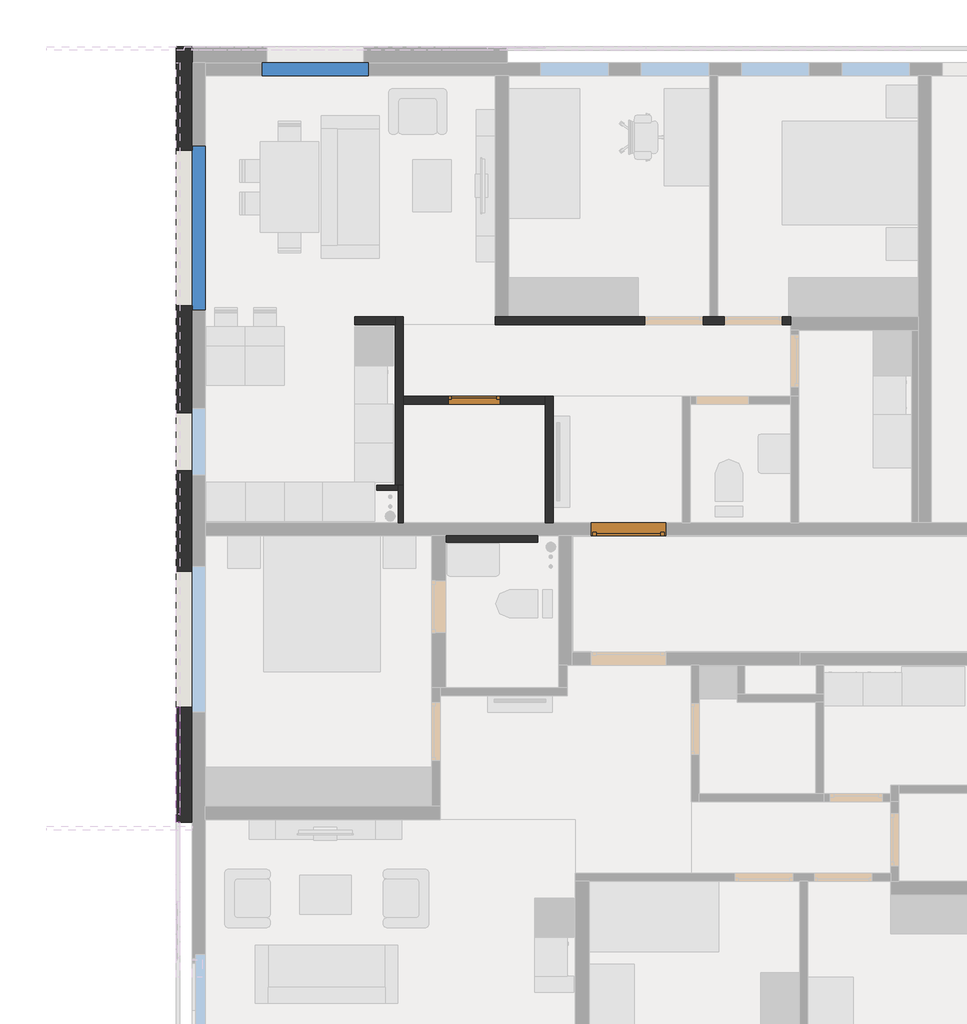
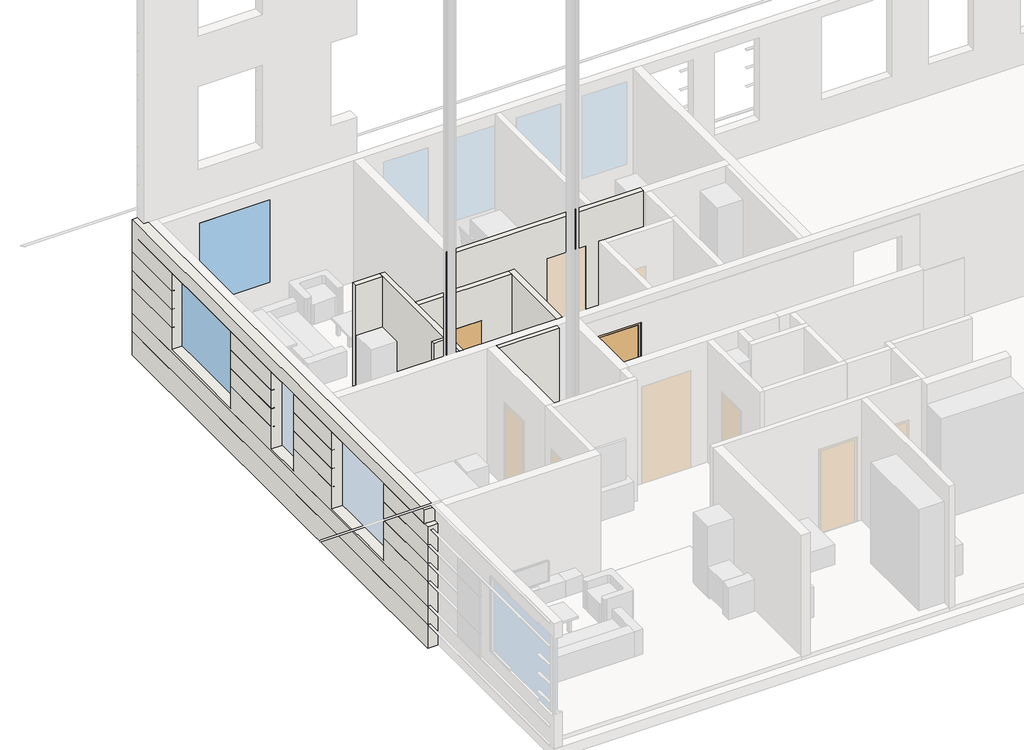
# One storey, part 3 of 11: 9 walls, 5 proxies, 4 doors, 2 windows.
"""IFC4 building model written with IfcOpenShell, lengths in millimetres."""

from ifc_helpers import new_model, si_unit, frame, origin, place, context, project, spatial, polyline, outline, extrude, faceted_brep, transform, mapped, element, save
from components import door_1f93f5fc, door_3b0bb860, door_73803761, door_1132ae02, window_4f46dce5, window_05762c98

model = new_model("IFC4")

# Units and contexts
model_context = context("Model", 3, world=origin())
ifc_project = project(units=[si_unit("LENGTHUNIT", "METRE", prefix="MILLI")], contexts=[model_context])

# Site, building, storey
site = spatial("IfcSite", under=ifc_project)
building = spatial("IfcBuilding", under=site)
storey = spatial("IfcBuildingStorey", under=building, Name="02_+4,400_Ж", Elevation=1200.0)

# Proxies
placement = place(None, origin())
element("IfcBuildingElementProxy", 1, Name="Reveals", at=placement, inside=storey, context=model_context, shape_type="SweptSolid", body=[
    extrude(outline(polyline([(128730.0000001, 128049.9999987), (128790.0000001, 128049.9999987), (128790.0000001, 126449.9999987), (128730.0000001, 126449.9999987), (128730.0000001, 128049.9999987)])), frame((0.0, 0.0, 3395.0), z_axis=(0.0, 0.0, 1.0), x_axis=(1.0, 0.0, 0.0)), (0.0, 0.0, 1.0), 5.0),
    extrude(outline(polyline([(128730.0000001, 117849.9999987), (128790.0000001, 117849.9999987), (128790.0000001, 116074.9999987), (128730.0000001, 116074.9999987), (128730.0000001, 117849.9999987)])), frame((0.0, 0.0, 3395.0), z_axis=(0.0, 0.0, 1.0), x_axis=(1.0, 0.0, 0.0)), (0.0, 0.0, 1.0), 5.0),
    extrude(outline(polyline([(128730.0000001, 121499.9999987), (128790.0000001, 121499.9999987), (128790.0000001, 119949.9999987), (128730.0000001, 119949.9999987), (128730.0000001, 121499.9999987)])), frame((0.0, 0.0, 3395.0), z_axis=(0.0, 0.0, 1.0), x_axis=(1.0, 0.0, 0.0)), (0.0, 0.0, 1.0), 5.0),
    extrude(outline(polyline([(128730.0000001, 124049.9999987), (128790.0000001, 124049.9999987), (128790.0000001, 122399.9999987), (128730.0000001, 122399.9999987), (128730.0000001, 124049.9999987)])), frame((0.0, 0.0, 3395.0), z_axis=(0.0, 0.0, 1.0), x_axis=(1.0, 0.0, 0.0)), (0.0, 0.0, 1.0), 5.0),
])
element("IfcBuildingElementProxy", 2, Name="Reveals", at=placement, inside=storey, context=model_context, shape_type="SweptSolid", body=[
    extrude(outline(polyline([(128730.0000001, 128049.9999987), (128790.0000001, 128049.9999987), (128790.0000001, 126449.9999987), (128730.0000001, 126449.9999987), (128730.0000001, 128049.9999987)])), frame((0.0, 0.0, 2940.0), z_axis=(0.0, 0.0, 1.0), x_axis=(1.0, 0.0, 0.0)), (0.0, 0.0, 1.0), 5.0),
    extrude(outline(polyline([(128730.0000001, 117849.9999987), (128790.0000001, 117849.9999987), (128790.0000001, 116074.9999987), (128730.0000001, 116074.9999987), (128730.0000001, 117849.9999987)])), frame((0.0, 0.0, 2940.0), z_axis=(0.0, 0.0, 1.0), x_axis=(1.0, 0.0, 0.0)), (0.0, 0.0, 1.0), 5.0),
    extrude(outline(polyline([(128730.0000001, 121499.9999987), (128790.0000001, 121499.9999987), (128790.0000001, 119949.9999987), (128730.0000001, 119949.9999987), (128730.0000001, 121499.9999987)])), frame((0.0, 0.0, 2940.0), z_axis=(0.0, 0.0, 1.0), x_axis=(1.0, 0.0, 0.0)), (0.0, 0.0, 1.0), 5.0),
    extrude(outline(polyline([(128730.0000001, 124049.9999987), (128790.0000001, 124049.9999987), (128790.0000001, 122399.9999987), (128730.0000001, 122399.9999987), (128730.0000001, 124049.9999987)])), frame((0.0, 0.0, 2940.0), z_axis=(0.0, 0.0, 1.0), x_axis=(1.0, 0.0, 0.0)), (0.0, 0.0, 1.0), 5.0),
])
element("IfcBuildingElementProxy", 3, Name="Reveals", at=placement, inside=storey, context=model_context, shape_type="SweptSolid", body=[
    extrude(outline(polyline([(128730.0000001, 128049.9999987), (128790.0000001, 128049.9999987), (128790.0000001, 126449.9999987), (128730.0000001, 126449.9999987), (128730.0000001, 128049.9999987)])), frame((0.0, 0.0, 2485.0), z_axis=(0.0, 0.0, 1.0), x_axis=(1.0, 0.0, 0.0)), (0.0, 0.0, 1.0), 5.0),
    extrude(outline(polyline([(128730.0000001, 117849.9999987), (128790.0000001, 117849.9999987), (128790.0000001, 116074.9999987), (128730.0000001, 116074.9999987), (128730.0000001, 117849.9999987)])), frame((0.0, 0.0, 2485.0), z_axis=(0.0, 0.0, 1.0), x_axis=(1.0, 0.0, 0.0)), (0.0, 0.0, 1.0), 5.0),
    extrude(outline(polyline([(128730.0000001, 121499.9999987), (128790.0000001, 121499.9999987), (128790.0000001, 119949.9999987), (128730.0000001, 119949.9999987), (128730.0000001, 121499.9999987)])), frame((0.0, 0.0, 2485.0), z_axis=(0.0, 0.0, 1.0), x_axis=(1.0, 0.0, 0.0)), (0.0, 0.0, 1.0), 5.0),
    extrude(outline(polyline([(128730.0000001, 124049.9999987), (128790.0000001, 124049.9999987), (128790.0000001, 122399.9999987), (128730.0000001, 122399.9999987), (128730.0000001, 124049.9999987)])), frame((0.0, 0.0, 2485.0), z_axis=(0.0, 0.0, 1.0), x_axis=(1.0, 0.0, 0.0)), (0.0, 0.0, 1.0), 5.0),
])
element("IfcBuildingElementProxy", 4, Name="Reveals", at=placement, inside=storey, context=model_context, shape_type="SweptSolid", body=[
    extrude(outline(polyline([(128730.0000001, 128049.9999987), (128790.0000001, 128049.9999987), (128790.0000001, 116074.9999987), (128730.0000001, 116074.9999987), (128730.0000001, 128049.9999987)])), frame((0.0, 0.0, 1880.0), z_axis=(0.0, 0.0, 1.0), x_axis=(1.0, 0.0, 0.0)), (0.0, 0.0, 1.0), 5.0),
])
element("IfcBuildingElementProxy", 5, Name="Reveals", at=placement, inside=storey, context=model_context, shape_type="SweptSolid", body=[
    extrude(outline(polyline([(128730.0000001, 128049.9999987), (128790.0000001, 128049.9999987), (128790.0000001, 116074.9999987), (128730.0000001, 116074.9999987), (128730.0000001, 128049.9999987)])), frame((0.0, 0.0, 1425.0), z_axis=(0.0, 0.0, 1.0), x_axis=(1.0, 0.0, 0.0)), (0.0, 0.0, 1.0), 5.0),
])

# Doors
door_shape = door_1f93f5fc(model_context)
element("IfcDoor", 6, ObjectType="Dr_Проем-Простой : ДВ", at=placement, inside=storey, context=model_context, shape_type="MappedRepresentation", body=[
    mapped(door_shape, transform((135920.3230165, 120599.9999987, 1200.0), x_axis=(-1.0, 0.0, 0.0), y_axis=(0.0, -1.0, 0.0), z_axis=(0.0, 0.0, 1.0))),
])
door_2_shape = door_3b0bb860(model_context)
element("IfcDoor", 7, ObjectType="Dr_Проем-Простой : ДВ", at=placement, inside=storey, context=model_context, shape_type="MappedRepresentation", body=[
    mapped(door_2_shape, transform((133124.9269838, 122592.4999987, 1200.0), x_axis=(1.0, 0.0, 0.0), y_axis=(0.0, 1.0, 0.0), z_axis=(0.0, 0.0, 1.0))),
])
door_3_shape = door_73803761(model_context)
element("IfcDoor", 8, ObjectType="Dr_Дверь_v2.1 : ДВПС Оп Г 24-11,5 Л EI30", at=placement, inside=storey, context=model_context, shape_type="MappedRepresentation", body=[
    mapped(door_3_shape, transform((135840.0000001, 120599.9999987, 1200.0), x_axis=(-1.0, 0.0, 0.0), y_axis=(0.0, -1.0, 0.0), z_axis=(0.0, 0.0, 1.0))),
])
door_4_shape = door_1132ae02(model_context)
element("IfcDoor", 9, ObjectType="Dr_Дверь_v2.1 : ДМ Мд1 Оп Г Брг 21-8", at=placement, inside=storey, context=model_context, shape_type="MappedRepresentation", body=[
    mapped(door_4_shape, transform((133205.2500001, 122592.4999987, 1200.0), x_axis=(1.0, 0.0, 0.0), y_axis=(0.0, 1.0, 0.0), z_axis=(0.0, 0.0, 1.0))),
])

# Walls
element("IfcWall", 10, ObjectType="BW_THR_EXT_180+60+10=250_2-9 эт минплита под вентфасад и КГ-------", at=placement, inside=storey, context=model_context, shape_type="Brep", body=[
    faceted_brep([(128730.0000001, 128049.9999987, 850.0), (128730.0000001, 116074.9999987, 850.0), (128730.0000001, 116074.9999987, 1425.0), (128730.0000001, 128049.9999987, 1425.0), (128730.0000001, 116199.9999987, 4200.0), (128730.0000001, 127799.9999987, 4200.0), (128730.0000001, 128049.9999987, 4200.0), (128730.0000001, 128049.9999987, 3850.0), (128730.0000001, 128049.9999987, 3400.0), (128730.0000001, 126449.9999987, 3400.0), (128730.0000001, 126449.9999987, 3850.0), (128730.0000001, 127799.9999987, 3850.0), (128730.0000001, 127799.9999987, 3855.0), (128730.0000001, 116199.9999987, 3855.0), (128730.0000001, 126449.9999987, 3395.0), (128730.0000001, 128049.9999987, 3395.0), (128730.0000001, 128049.9999987, 2945.0), (128730.0000001, 126449.9999987, 2945.0), (128730.0000001, 126449.9999987, 2940.0), (128730.0000001, 128049.9999987, 2940.0), (128730.0000001, 128049.9999987, 2490.0), (128730.0000001, 126449.9999987, 2490.0), (128730.0000001, 126449.9999987, 2485.0), (128730.0000001, 128049.9999987, 2485.0), (128730.0000001, 128049.9999987, 1885.0), (128730.0000001, 116074.9999987, 1885.0), (128730.0000001, 116074.9999987, 2485.0), (128730.0000001, 117849.9999987, 2485.0), (128730.0000001, 117849.9999987, 1950.0), (128730.0000001, 119949.9999987, 1950.0), (128730.0000001, 119949.9999987, 2485.0), (128730.0000001, 121499.9999987, 2485.0), (128730.0000001, 121499.9999987, 1950.0), (128730.0000001, 122399.9999987, 1950.0), (128730.0000001, 122399.9999987, 2485.0), (128730.0000001, 124049.9999987, 2485.0), (128730.0000001, 124049.9999987, 1950.0), (128730.0000001, 126449.9999987, 1950.0), (128730.0000001, 116074.9999987, 1880.0), (128730.0000001, 128049.9999987, 1880.0), (128730.0000001, 128049.9999987, 1430.0), (128730.0000001, 116074.9999987, 1430.0), (128730.0000001, 117849.9999987, 3400.0), (128730.0000001, 116074.9999987, 3400.0), (128730.0000001, 116074.9999987, 3850.0), (128730.0000001, 117849.9999987, 3850.0), (128730.0000001, 116074.9999987, 3395.0), (128730.0000001, 117849.9999987, 3395.0), (128730.0000001, 117849.9999987, 2945.0), (128730.0000001, 116074.9999987, 2945.0), (128730.0000001, 121499.9999987, 3400.0), (128730.0000001, 119949.9999987, 3400.0), (128730.0000001, 119949.9999987, 3850.0), (128730.0000001, 121499.9999987, 3850.0), (128730.0000001, 119949.9999987, 3395.0), (128730.0000001, 121499.9999987, 3395.0), (128730.0000001, 121499.9999987, 2945.0), (128730.0000001, 119949.9999987, 2945.0), (128730.0000001, 124049.9999987, 3400.0), (128730.0000001, 122399.9999987, 3400.0), (128730.0000001, 122399.9999987, 3850.0), (128730.0000001, 124049.9999987, 3850.0), (128730.0000001, 122399.9999987, 3395.0), (128730.0000001, 124049.9999987, 3395.0), (128730.0000001, 124049.9999987, 2945.0), (128730.0000001, 122399.9999987, 2945.0), (128730.0000001, 116074.9999987, 2940.0), (128730.0000001, 117849.9999987, 2940.0), (128730.0000001, 117849.9999987, 2490.0), (128730.0000001, 116074.9999987, 2490.0), (128730.0000001, 119949.9999987, 2940.0), (128730.0000001, 121499.9999987, 2940.0), (128730.0000001, 121499.9999987, 2490.0), (128730.0000001, 119949.9999987, 2490.0), (128730.0000001, 122399.9999987, 2940.0), (128730.0000001, 124049.9999987, 2940.0), (128730.0000001, 124049.9999987, 2490.0), (128730.0000001, 122399.9999987, 2490.0), (128980.0000001, 116074.9999987, 850.0), (128980.0000001, 127799.9999987, 850.0), (128980.0000001, 128049.9999987, 850.0), (128980.0000001, 128049.9999987, 1425.0), (128980.0000001, 128049.9999987, 1430.0), (128980.0000001, 128049.9999987, 1880.0), (128980.0000001, 128049.9999987, 1885.0), (128980.0000001, 128049.9999987, 2485.0), (128980.0000001, 128049.9999987, 2490.0), (128980.0000001, 128049.9999987, 2940.0), (128980.0000001, 128049.9999987, 2945.0), (128980.0000001, 128049.9999987, 3395.0), (128980.0000001, 128049.9999987, 3400.0), (128980.0000001, 128049.9999987, 3850.0), (128980.0000001, 128049.9999987, 3855.0), (128980.0000001, 128049.9999987, 4200.0), (128980.0000001, 127799.9999987, 4200.0), (128980.0000001, 116199.9999987, 4200.0), (128980.0000001, 116199.9999987, 3850.0), (128980.0000001, 116074.9999987, 3850.0), (128980.0000001, 124049.9999987, 3850.0), (128980.0000001, 126449.9999987, 3850.0), (128980.0000001, 126449.9999987, 1950.0), (128980.0000001, 124049.9999987, 1950.0), (128980.0000001, 117849.9999987, 3850.0), (128980.0000001, 119949.9999987, 3850.0), (128980.0000001, 119949.9999987, 1950.0), (128980.0000001, 117849.9999987, 1950.0), (128980.0000001, 121499.9999987, 3850.0), (128980.0000001, 122399.9999987, 3850.0), (128980.0000001, 122399.9999987, 1950.0), (128980.0000001, 121499.9999987, 1950.0), (128855.0000001, 128049.9999987, 4200.0), (128790.0000001, 128049.9999987, 1425.0), (128790.0000001, 128049.9999987, 1430.0), (128790.0000001, 128049.9999987, 1880.0), (128790.0000001, 128049.9999987, 1885.0), (128790.0000001, 128049.9999987, 2485.0), (128790.0000001, 128049.9999987, 2490.0), (128790.0000001, 128049.9999987, 2940.0), (128790.0000001, 128049.9999987, 2945.0), (128790.0000001, 128049.9999987, 3395.0), (128790.0000001, 128049.9999987, 3400.0), (128790.0000001, 127799.9999987, 3850.0), (128790.0000001, 127799.9999987, 3855.0), (128790.0000001, 126449.9999987, 3850.0), (128790.0000001, 124049.9999987, 3850.0), (128790.0000001, 122399.9999987, 3850.0), (128790.0000001, 121499.9999987, 3850.0), (128790.0000001, 119949.9999987, 3850.0), (128790.0000001, 117849.9999987, 3850.0), (128790.0000001, 116199.9999987, 3850.0), (128790.0000001, 116199.9999987, 3855.0), (128790.0000001, 126449.9999987, 3395.0), (128790.0000001, 126449.9999987, 3400.0), (128790.0000001, 126449.9999987, 2940.0), (128790.0000001, 126449.9999987, 2945.0), (128790.0000001, 126449.9999987, 2485.0), (128790.0000001, 126449.9999987, 2490.0), (128790.0000001, 116074.9999987, 1880.0), (128790.0000001, 116074.9999987, 1885.0), (128790.0000001, 116074.9999987, 1425.0), (128790.0000001, 116074.9999987, 1430.0), (128790.0000001, 117849.9999987, 3400.0), (128790.0000001, 116074.9999987, 3400.0), (128790.0000001, 117849.9999987, 3395.0), (128790.0000001, 116074.9999987, 3395.0), (128790.0000001, 121499.9999987, 3400.0), (128790.0000001, 119949.9999987, 3400.0), (128790.0000001, 121499.9999987, 3395.0), (128790.0000001, 119949.9999987, 3395.0), (128790.0000001, 124049.9999987, 3400.0), (128790.0000001, 122399.9999987, 3400.0), (128790.0000001, 124049.9999987, 3395.0), (128790.0000001, 122399.9999987, 3395.0), (128790.0000001, 117849.9999987, 2945.0), (128790.0000001, 116074.9999987, 2945.0), (128790.0000001, 117849.9999987, 2940.0), (128790.0000001, 116074.9999987, 2940.0), (128790.0000001, 121499.9999987, 2945.0), (128790.0000001, 119949.9999987, 2945.0), (128790.0000001, 121499.9999987, 2940.0), (128790.0000001, 119949.9999987, 2940.0), (128790.0000001, 124049.9999987, 2945.0), (128790.0000001, 122399.9999987, 2945.0), (128790.0000001, 124049.9999987, 2940.0), (128790.0000001, 122399.9999987, 2940.0), (128790.0000001, 117849.9999987, 2490.0), (128790.0000001, 116074.9999987, 2490.0), (128790.0000001, 117849.9999987, 2485.0), (128790.0000001, 116074.9999987, 2485.0), (128790.0000001, 121499.9999987, 2490.0), (128790.0000001, 119949.9999987, 2490.0), (128790.0000001, 121499.9999987, 2485.0), (128790.0000001, 119949.9999987, 2485.0), (128790.0000001, 124049.9999987, 2490.0), (128790.0000001, 122399.9999987, 2490.0), (128790.0000001, 124049.9999987, 2485.0), (128790.0000001, 122399.9999987, 2485.0)], [[[0, 1, 2, 3]], [[4, 5, 6, 7, 8, 9, 10, 11, 12, 13]], [[14, 15, 16, 17]], [[18, 19, 20, 21]], [[22, 23, 24, 25, 26, 27, 28, 29, 30, 31, 32, 33, 34, 35, 36, 37]], [[38, 39, 40, 41]], [[42, 43, 44, 45]], [[46, 47, 48, 49]], [[50, 51, 52, 53]], [[54, 55, 56, 57]], [[58, 59, 60, 61]], [[62, 63, 64, 65]], [[66, 67, 68, 69]], [[70, 71, 72, 73]], [[74, 75, 76, 77]], [[78, 79, 80, 81, 82, 83, 84, 85, 86, 87, 88, 89, 90, 91, 92, 93, 94, 95, 96, 97], [98, 99, 100, 101], [102, 103, 104, 105], [106, 107, 108, 109]], [[1, 0, 80, 79, 78]], [[6, 5, 4, 95, 94, 93, 110]], [[6, 110, 93, 92, 91, 90, 89, 88, 87, 86, 85, 84, 83, 82, 81, 80, 0, 3, 111, 112, 40, 39, 113, 114, 24, 23, 115, 116, 20, 19, 117, 118, 16, 15, 119, 120, 8, 7]], [[11, 121, 122, 12]], [[122, 121, 123, 124, 125, 126, 127, 128, 129, 130]], [[12, 122, 130, 13]], [[131, 119, 15, 14]], [[132, 120, 119, 131]], [[120, 132, 9, 8]], [[133, 117, 19, 18]], [[134, 118, 117, 133]], [[118, 134, 17, 16]], [[135, 115, 23, 22]], [[136, 116, 115, 135]], [[116, 136, 21, 20]], [[113, 39, 38, 137]], [[114, 113, 137, 138]], [[24, 114, 138, 25]], [[139, 111, 3, 2]], [[111, 139, 140, 112]], [[112, 140, 41, 40]], [[43, 42, 141, 142]], [[142, 141, 143, 144]], [[47, 46, 144, 143]], [[145, 146, 51, 50]], [[146, 145, 147, 148]], [[148, 147, 55, 54]], [[149, 150, 59, 58]], [[150, 149, 151, 152]], [[152, 151, 63, 62]], [[49, 48, 153, 154]], [[154, 153, 155, 156]], [[67, 66, 156, 155]], [[157, 158, 57, 56]], [[158, 157, 159, 160]], [[160, 159, 71, 70]], [[161, 162, 65, 64]], [[162, 161, 163, 164]], [[164, 163, 75, 74]], [[69, 68, 165, 166]], [[166, 165, 167, 168]], [[27, 26, 168, 167]], [[169, 170, 73, 72]], [[170, 169, 171, 172]], [[172, 171, 31, 30]], [[173, 174, 77, 76]], [[174, 173, 175, 176]], [[176, 175, 35, 34]], [[1, 78, 97, 44, 43, 142, 144, 46, 49, 154, 156, 66, 69, 166, 168, 26, 25, 138, 137, 38, 41, 140, 139, 2]], [[121, 11, 10, 123]], [[44, 97, 96, 129, 128, 45]], [[61, 60, 125, 124]], [[53, 52, 127, 126]], [[96, 95, 4, 13, 130, 129]], [[99, 98, 124, 123]], [[101, 36, 35, 175, 173, 76, 75, 163, 161, 64, 63, 151, 149, 58, 61, 124, 98]], [[36, 101, 100, 37]], [[37, 100, 99, 123, 10, 9, 132, 131, 14, 17, 134, 133, 18, 21, 136, 135, 22]], [[103, 102, 128, 127]], [[105, 28, 27, 167, 165, 68, 67, 155, 153, 48, 47, 143, 141, 42, 45, 128, 102]], [[28, 105, 104, 29]], [[29, 104, 103, 127, 52, 51, 146, 148, 54, 57, 158, 160, 70, 73, 170, 172, 30]], [[107, 106, 126, 125]], [[109, 32, 31, 171, 169, 72, 71, 159, 157, 56, 55, 147, 145, 50, 53, 126, 106]], [[32, 109, 108, 33]], [[33, 108, 107, 125, 60, 59, 150, 152, 62, 65, 162, 164, 74, 77, 174, 176, 34]]]),
])
element("IfcWall", 11, ObjectType="BW_SUB_GKL_INT_125_Тип П9.1-------", at=placement, inside=storey, context=model_context, shape_type="Brep", body=[
    faceted_brep([(133655.0000001, 123879.9999987, 4200.0), (133865.0000001, 123879.9999987, 4200.0), (136965.0000001, 123879.9999987, 4200.0), (137090.0000001, 123879.9999987, 4200.0), (138215.0000001, 123879.9999987, 4200.0), (138215.0000001, 123879.9999987, 1180.0), (138090.0000001, 123879.9999987, 1180.0), (138090.0000001, 123879.9999987, 3300.0), (137190.0000001, 123879.9999987, 3300.0), (137190.0000001, 123879.9999987, 1180.0), (137090.0000001, 123879.9999987, 1180.0), (136965.0000001, 123879.9999987, 1180.0), (136865.0000001, 123879.9999987, 1180.0), (136865.0000001, 123879.9999987, 3300.0), (135965.0000001, 123879.9999987, 3300.0), (135965.0000001, 123879.9999987, 1180.0), (133865.0000001, 123879.9999987, 1180.0), (133655.0000001, 123879.9999987, 1180.0), (138215.0000001, 123754.9999987, 4200.0), (133655.0000001, 123754.9999987, 4200.0), (133655.0000001, 123754.9999987, 1180.0), (135965.0000001, 123754.9999987, 1180.0), (135965.0000001, 123754.9999987, 3300.0), (136865.0000001, 123754.9999987, 3300.0), (136865.0000001, 123754.9999987, 1180.0), (137190.0000001, 123754.9999987, 1180.0), (137190.0000001, 123754.9999987, 3300.0), (138090.0000001, 123754.9999987, 3300.0), (138090.0000001, 123754.9999987, 1180.0), (138215.0000001, 123754.9999987, 1180.0)], [[[0, 1, 2, 3, 4, 5, 6, 7, 8, 9, 10, 11, 12, 13, 14, 15, 16, 17]], [[18, 19, 20, 21, 22, 23, 24, 25, 26, 27, 28, 29]], [[20, 17, 16, 15, 21]], [[24, 12, 11, 10, 9, 25]], [[5, 29, 28, 6]], [[4, 3, 2, 1, 0, 19, 18]], [[0, 17, 20, 19]], [[15, 14, 22, 21]], [[13, 12, 24, 23]], [[14, 13, 23, 22]], [[5, 4, 18, 29]], [[8, 26, 25, 9]], [[27, 7, 6, 28]], [[26, 8, 7, 27]]]),
])
element("IfcWall", 12, ObjectType="BW_SUB_GKL_INT_125_Тип П9.1-------", at=placement, inside=storey, context=model_context, shape_type="Brep", body=[
    faceted_brep([(134555.0000001, 120699.9999987, 1180.0), (134555.0000001, 122654.9999987, 1180.0), (134555.0000001, 122654.9999987, 4200.0), (134555.0000001, 120699.9999987, 4200.0), (134430.0000001, 120699.9999987, 1180.0), (134430.0000001, 120699.9999987, 4200.0), (134430.0000001, 122529.9999987, 4200.0), (134430.0000001, 122654.9999987, 4200.0), (134430.0000001, 122654.9999987, 1180.0), (134430.0000001, 122529.9999987, 1180.0)], [[[0, 1, 2, 3]], [[4, 5, 6, 7, 8, 9]], [[1, 0, 4, 9, 8]], [[3, 2, 7, 6, 5]], [[0, 3, 5, 4]], [[2, 1, 8, 7]]]),
])
element("IfcWall", 13, ObjectType="BW_SUB_GKL_INT_125_Тип П9.1-------", at=placement, inside=storey, context=model_context, shape_type="Brep", body=[
    faceted_brep([(132240.0000001, 121279.9999987, 1180.0), (132240.0000001, 122529.9999987, 1180.0), (132240.0000001, 122654.9999987, 1180.0), (132240.0000001, 123879.9999987, 1180.0), (132240.0000001, 123879.9999987, 4200.0), (132240.0000001, 122654.9999987, 4200.0), (132240.0000001, 122529.9999987, 4200.0), (132240.0000001, 121279.9999987, 4200.0), (132115.0000001, 121279.9999987, 1180.0), (132115.0000001, 121279.9999987, 4200.0), (132115.0000001, 123754.9999987, 4200.0), (132115.0000001, 123879.9999987, 4200.0), (132115.0000001, 123879.9999987, 1180.0), (132115.0000001, 123754.9999987, 1180.0)], [[[0, 1, 2, 3, 4, 5, 6, 7]], [[8, 9, 10, 11, 12, 13]], [[3, 2, 1, 0, 8, 13, 12]], [[7, 6, 5, 4, 11, 10, 9]], [[0, 7, 9, 8]], [[4, 3, 12, 11]]]),
])
element("IfcWall", 14, ObjectType="BW_SUB_SKZ_INT_80_Тип П3,П5,П11,П12-------", at=placement, inside=storey, context=model_context, shape_type="SweptSolid", body=[
    extrude(outline(polyline([(132160.0000001, 121199.9999987), (131830.0000001, 121199.9999987), (131830.0000001, 121279.9999987), (132160.0000001, 121279.9999987), (132160.0000001, 121199.9999987)])), frame((0.0, 0.0, 1100.0), z_axis=(0.0, 0.0, 1.0), x_axis=(1.0, 0.0, 0.0)), (0.0, 0.0, 1.0), 3100.0),
])
element("IfcWall", 15, ObjectType="BW_SUB_SKZ_INT_80_Тип П3,П5,П11,П12-------", at=placement, inside=storey, context=model_context, shape_type="Brep", body=[
    faceted_brep([(132160.0000001, 121279.9999987, 1100.0), (132160.0000001, 121199.9999987, 1100.0), (132160.0000001, 120699.9999987, 1100.0), (132160.0000001, 120699.9999987, 4200.0), (132160.0000001, 121199.9999987, 4200.0), (132160.0000001, 121279.9999987, 4200.0), (132240.0000001, 121279.9999987, 1100.0), (132240.0000001, 121279.9999987, 4200.0), (132240.0000001, 120699.9999987, 4200.0), (132240.0000001, 120699.9999987, 1100.0)], [[[0, 1, 2, 3, 4, 5]], [[6, 7, 8, 9]], [[2, 1, 0, 6, 9]], [[3, 2, 9, 8]], [[5, 4, 3, 8, 7]], [[0, 5, 7, 6]]]),
])
element("IfcWall", 16, ObjectType="BW_SUB_GKL_INT_125_Тип П9.1-------", at=placement, inside=storey, context=model_context, shape_type="SweptSolid", body=[
    extrude(outline(polyline([(4200.0, 134430.0000001), (4200.0, 132240.0000001), (1180.0, 132240.0000001), (1180.0, 132930.2500001), (3300.0, 132930.2500001), (3300.0, 133730.2500001), (1180.0, 133730.2500001), (1180.0, 134430.0000001), (4200.0, 134430.0000001)])), frame((0.0, 122529.9999987, 0.0), z_axis=(0.0, 1.0, 0.0), x_axis=(0.0, 0.0, 1.0)), (0.0, 0.0, 1.0), 125.0),
])
element("IfcWall", 17, ObjectType="BW_SUB_GKL_INT_125_Тип П9.1_огибание в торцах-------", at=placement, inside=storey, context=model_context, shape_type="SweptSolid", body=[
    extrude(outline(polyline([(131485.0000001, 123879.9999987), (132115.0000001, 123879.9999987), (132115.0000001, 123754.9999987), (131485.0000001, 123754.9999987), (131485.0000001, 123879.9999987)])), frame((0.0, 0.0, 1180.0), z_axis=(0.0, 0.0, 1.0), x_axis=(1.0, 0.0, 0.0)), (0.0, 0.0, 1.0), 3020.0),
])
element("IfcWall", 18, ObjectType="BW_SUB_SKZ_INT_80+20=100_Тип П12-------", at=placement, inside=storey, context=model_context, shape_type="SweptSolid", body=[
    extrude(outline(polyline([(134310.0000001, 120399.9999987), (132890.0000001, 120399.9999987), (132890.0000001, 120499.9999987), (134310.0000001, 120499.9999987), (134310.0000001, 120399.9999987)])), frame((0.0, 0.0, 1100.0), z_axis=(0.0, 0.0, 1.0), x_axis=(1.0, 0.0, 0.0)), (0.0, 0.0, 1.0), 3100.0),
])

# Windows
window_shape = window_4f46dce5(model_context)
element("IfcWindow", 19, ObjectType="Dr_Проем-Четверти_об модель : ОК", at=placement, inside=storey, context=model_context, shape_type="MappedRepresentation", body=[
    mapped(window_shape, transform((130745.0000001, 127699.9999987, 1950.0), x_axis=(1.0, 0.0, 0.0), y_axis=(0.0, 1.0, 0.0), z_axis=(0.0, 0.0, 1.0))),
])
window_2_shape = window_05762c98(model_context)
element("IfcWindow", 20, ObjectType="Dr_Проем-Четверти_об модель : ОК", at=placement, inside=storey, context=model_context, shape_type="MappedRepresentation", body=[
    mapped(window_2_shape, transform((129080.0000001, 125114.9999987, 1950.0), x_axis=(0.0, 1.0, 0.0), y_axis=(-1.0, 0.0, 0.0), z_axis=(0.0, 0.0, 1.0))),
])

save(model, "model.ifc")
